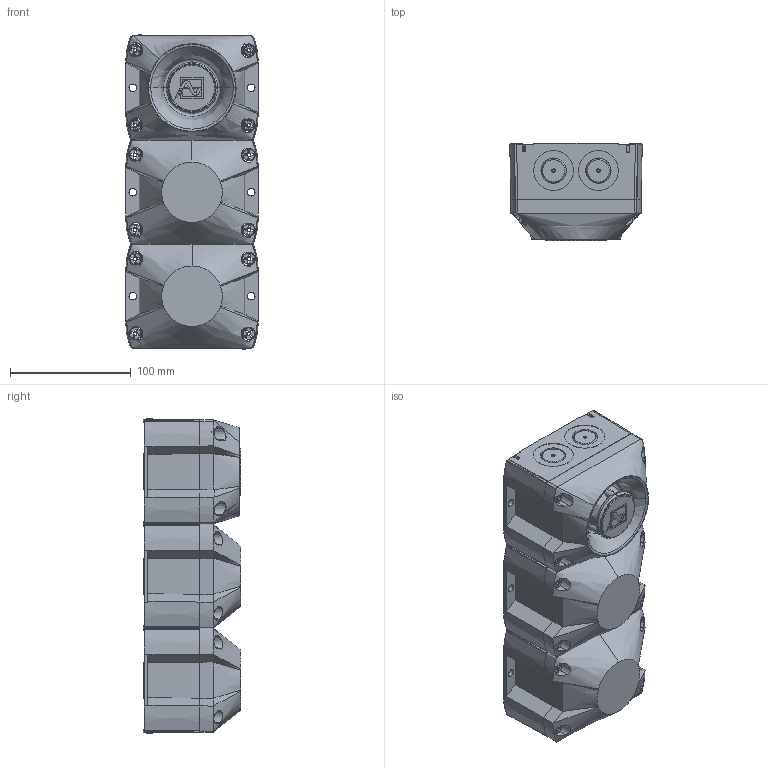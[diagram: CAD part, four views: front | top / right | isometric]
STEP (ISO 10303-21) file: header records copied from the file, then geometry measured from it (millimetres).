
FILE_DESCRIPTION (( 'STEP AP214' ), '1' );
FILE_NAME ('PY L-S-TLA-2.STEP', '2020-04-21T09:55:19', ( '' ), ( '' ), 'SwSTEP 2.0', 'SolidWorks 2018', '' );
FILE_SCHEMA (( 'AUTOMOTIVE_DESIGN' ));
Length unit declared in the file: millimetre
Products named in the file (2): PY L-S-TLA-2
Bounding box: 109.61 x 80.6 x 261.4 mm (x, y, z)
Surface area: 168504.7 mm2 (no closed solid volume)
Topology: 0 solids, 92 shells, 1125 faces, 6468 edges, 5299 vertices
Faces by surface type: plane 549, bspline 286, cone 187, torus 54, cylinder 45, sphere 4
Entity records: 107154 total; most frequent: CARTESIAN_POINT 52984, ORIENTED_EDGE 8409, EDGE_CURVE 6456, DIRECTION 6015, VERTEX_POINT 5296, B_SPLINE_CURVE_WITH_KNOTS 2926, VECTOR 2525, LINE 2525
